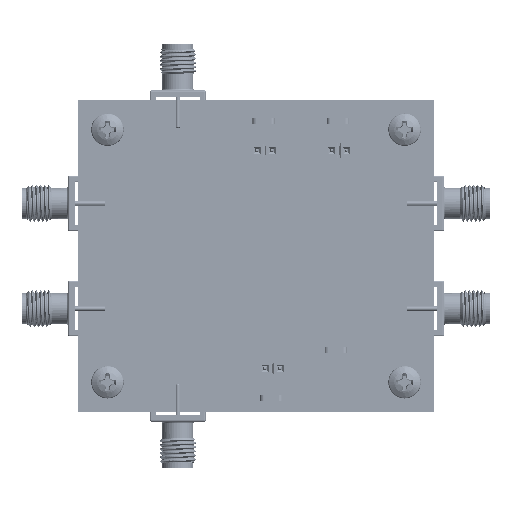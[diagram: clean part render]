
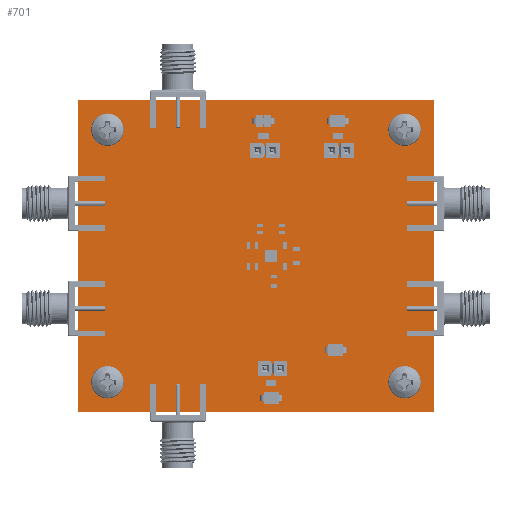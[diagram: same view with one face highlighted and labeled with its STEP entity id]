
A CAD part, top view. The second image highlights one B-rep face of the part: STEP entity #701.
In plain terms, the highlighted planar face has unit normal (0, 0, 1).
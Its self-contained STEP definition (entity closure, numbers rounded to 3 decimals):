
#212 = VERTEX_POINT('',#213);
#213 = CARTESIAN_POINT('',(-5.08,-5.08,1.575));
#219 = EDGE_CURVE('',#212,#220,#222,.T.);
#220 = VERTEX_POINT('',#221);
#221 = CARTESIAN_POINT('',(-5.08,48.26,1.575));
#222 = LINE('',#223,#224);
#223 = CARTESIAN_POINT('',(-5.08,-5.08,1.575));
#224 = VECTOR('',#225,1.);
#225 = DIRECTION('',(0.,1.,0.));
#250 = EDGE_CURVE('',#220,#251,#253,.T.);
#251 = VERTEX_POINT('',#252);
#252 = CARTESIAN_POINT('',(55.88,48.26,1.575));
#253 = LINE('',#254,#255);
#254 = CARTESIAN_POINT('',(-5.08,48.26,1.575));
#255 = VECTOR('',#256,1.);
#256 = DIRECTION('',(1.,0.,0.));
#281 = EDGE_CURVE('',#251,#282,#284,.T.);
#282 = VERTEX_POINT('',#283);
#283 = CARTESIAN_POINT('',(55.88,-5.08,1.575));
#284 = LINE('',#285,#286);
#285 = CARTESIAN_POINT('',(55.88,48.26,1.575));
#286 = VECTOR('',#287,1.);
#287 = DIRECTION('',(0.,-1.,0.));
#312 = EDGE_CURVE('',#282,#212,#313,.T.);
#313 = LINE('',#314,#315);
#314 = CARTESIAN_POINT('',(55.88,-5.08,1.575));
#315 = VECTOR('',#316,1.);
#316 = DIRECTION('',(-1.,0.,0.));
#336 = VERTEX_POINT('',#337);
#337 = CARTESIAN_POINT('',(1.588,0.,1.575));
#343 = EDGE_CURVE('',#336,#336,#344,.T.);
#344 = CIRCLE('',#345,1.588);
#345 = AXIS2_PLACEMENT_3D('',#346,#347,#348);
#346 = CARTESIAN_POINT('',(0.,0.,1.575));
#347 = DIRECTION('',(0.,0.,1.));
#348 = DIRECTION('',(1.,0.,-0.));
#369 = VERTEX_POINT('',#370);
#370 = CARTESIAN_POINT('',(27.447,2.37,1.575));
#376 = EDGE_CURVE('',#369,#369,#377,.T.);
#377 = CIRCLE('',#378,0.51);
#378 = AXIS2_PLACEMENT_3D('',#379,#380,#381);
#379 = CARTESIAN_POINT('',(26.937,2.37,1.575));
#380 = DIRECTION('',(0.,0.,1.));
#381 = DIRECTION('',(1.,0.,-0.));
#402 = VERTEX_POINT('',#403);
#403 = CARTESIAN_POINT('',(1.588,43.18,1.575));
#409 = EDGE_CURVE('',#402,#402,#410,.T.);
#410 = CIRCLE('',#411,1.588);
#411 = AXIS2_PLACEMENT_3D('',#412,#413,#414);
#412 = CARTESIAN_POINT('',(0.,43.18,1.575));
#413 = DIRECTION('',(0.,0.,1.));
#414 = DIRECTION('',(1.,0.,-0.));
#435 = VERTEX_POINT('',#436);
#436 = CARTESIAN_POINT('',(28.67,39.605,1.575));
#442 = EDGE_CURVE('',#435,#435,#443,.T.);
#443 = CIRCLE('',#444,0.51);
#444 = AXIS2_PLACEMENT_3D('',#445,#446,#447);
#445 = CARTESIAN_POINT('',(28.16,39.605,1.575));
#446 = DIRECTION('',(0.,0.,1.));
#447 = DIRECTION('',(1.,0.,-0.));
#468 = VERTEX_POINT('',#469);
#469 = CARTESIAN_POINT('',(26.13,39.605,1.575));
#475 = EDGE_CURVE('',#468,#468,#476,.T.);
#476 = CIRCLE('',#477,0.51);
#477 = AXIS2_PLACEMENT_3D('',#478,#479,#480);
#478 = CARTESIAN_POINT('',(25.62,39.605,1.575));
#479 = DIRECTION('',(0.,0.,1.));
#480 = DIRECTION('',(1.,0.,-0.));
#501 = VERTEX_POINT('',#502);
#502 = CARTESIAN_POINT('',(29.987,2.37,1.575));
#508 = EDGE_CURVE('',#501,#501,#509,.T.);
#509 = CIRCLE('',#510,0.51);
#510 = AXIS2_PLACEMENT_3D('',#511,#512,#513);
#511 = CARTESIAN_POINT('',(29.477,2.37,1.575));
#512 = DIRECTION('',(0.,0.,1.));
#513 = DIRECTION('',(1.,0.,-0.));
#534 = VERTEX_POINT('',#535);
#535 = CARTESIAN_POINT('',(52.388,0.,1.575));
#541 = EDGE_CURVE('',#534,#534,#542,.T.);
#542 = CIRCLE('',#543,1.588);
#543 = AXIS2_PLACEMENT_3D('',#544,#545,#546);
#544 = CARTESIAN_POINT('',(50.8,0.,1.575));
#545 = DIRECTION('',(0.,0.,1.));
#546 = DIRECTION('',(1.,0.,-0.));
#567 = VERTEX_POINT('',#568);
#568 = CARTESIAN_POINT('',(38.83,39.605,1.575));
#574 = EDGE_CURVE('',#567,#567,#575,.T.);
#575 = CIRCLE('',#576,0.51);
#576 = AXIS2_PLACEMENT_3D('',#577,#578,#579);
#577 = CARTESIAN_POINT('',(38.32,39.605,1.575));
#578 = DIRECTION('',(0.,0.,1.));
#579 = DIRECTION('',(1.,0.,-0.));
#600 = VERTEX_POINT('',#601);
#601 = CARTESIAN_POINT('',(41.37,39.605,1.575));
#607 = EDGE_CURVE('',#600,#600,#608,.T.);
#608 = CIRCLE('',#609,0.51);
#609 = AXIS2_PLACEMENT_3D('',#610,#611,#612);
#610 = CARTESIAN_POINT('',(40.86,39.605,1.575));
#611 = DIRECTION('',(0.,0.,1.));
#612 = DIRECTION('',(1.,0.,-0.));
#633 = VERTEX_POINT('',#634);
#634 = CARTESIAN_POINT('',(52.388,43.18,1.575));
#640 = EDGE_CURVE('',#633,#633,#641,.T.);
#641 = CIRCLE('',#642,1.588);
#642 = AXIS2_PLACEMENT_3D('',#643,#644,#645);
#643 = CARTESIAN_POINT('',(50.8,43.18,1.575));
#644 = DIRECTION('',(0.,0.,1.));
#645 = DIRECTION('',(1.,0.,-0.));
#701 = ADVANCED_FACE('',(#702,#708,#711,#714,#717,#720,#723,#726,#729,
    #732,#735),#738,.F.);
#702 = FACE_BOUND('',#703,.F.);
#703 = EDGE_LOOP('',(#704,#705,#706,#707));
#704 = ORIENTED_EDGE('',*,*,#219,.T.);
#705 = ORIENTED_EDGE('',*,*,#250,.T.);
#706 = ORIENTED_EDGE('',*,*,#281,.T.);
#707 = ORIENTED_EDGE('',*,*,#312,.T.);
#708 = FACE_BOUND('',#709,.F.);
#709 = EDGE_LOOP('',(#710));
#710 = ORIENTED_EDGE('',*,*,#343,.T.);
#711 = FACE_BOUND('',#712,.F.);
#712 = EDGE_LOOP('',(#713));
#713 = ORIENTED_EDGE('',*,*,#376,.T.);
#714 = FACE_BOUND('',#715,.F.);
#715 = EDGE_LOOP('',(#716));
#716 = ORIENTED_EDGE('',*,*,#409,.T.);
#717 = FACE_BOUND('',#718,.F.);
#718 = EDGE_LOOP('',(#719));
#719 = ORIENTED_EDGE('',*,*,#442,.T.);
#720 = FACE_BOUND('',#721,.F.);
#721 = EDGE_LOOP('',(#722));
#722 = ORIENTED_EDGE('',*,*,#475,.T.);
#723 = FACE_BOUND('',#724,.F.);
#724 = EDGE_LOOP('',(#725));
#725 = ORIENTED_EDGE('',*,*,#508,.T.);
#726 = FACE_BOUND('',#727,.F.);
#727 = EDGE_LOOP('',(#728));
#728 = ORIENTED_EDGE('',*,*,#541,.T.);
#729 = FACE_BOUND('',#730,.F.);
#730 = EDGE_LOOP('',(#731));
#731 = ORIENTED_EDGE('',*,*,#574,.T.);
#732 = FACE_BOUND('',#733,.F.);
#733 = EDGE_LOOP('',(#734));
#734 = ORIENTED_EDGE('',*,*,#607,.T.);
#735 = FACE_BOUND('',#736,.F.);
#736 = EDGE_LOOP('',(#737));
#737 = ORIENTED_EDGE('',*,*,#640,.T.);
#738 = PLANE('',#739);
#739 = AXIS2_PLACEMENT_3D('',#740,#741,#742);
#740 = CARTESIAN_POINT('',(25.4,21.59,1.575));
#741 = DIRECTION('',(-0.,-0.,-1.));
#742 = DIRECTION('',(-1.,0.,0.));
